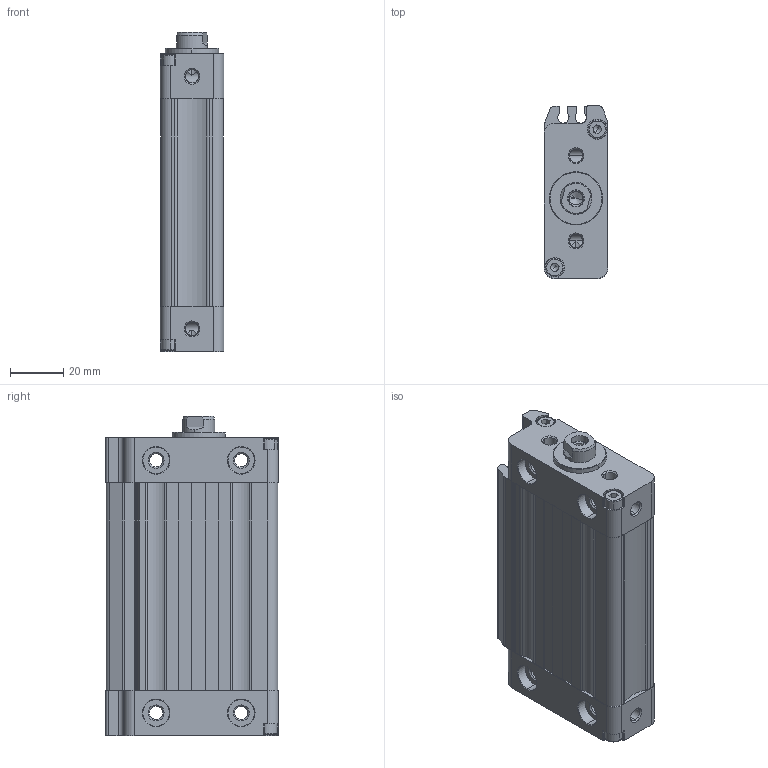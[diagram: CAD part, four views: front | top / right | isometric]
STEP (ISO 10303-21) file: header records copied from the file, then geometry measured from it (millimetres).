
FILE_DESCRIPTION (( 'STEP AP214' ), '1' );
FILE_NAME ('WOC-032-0040 (3D).STEP', '2020-05-21T07:41:19', ( '' ), ( '' ), 'SwSTEP 2.0', 'SolidWorks 2016', '' );
FILE_SCHEMA (( 'AUTOMOTIVE_DESIGN' ));
Length unit declared in the file: millimetre
Products named in the file (5): WOC-032-0040 (3D); Group4^WOC-032-0040 (3D); Group3^WOC-032-0040 (3D); Group1^WOC-032-0040 (3D); Group2^WOC-032-0040 (3D)
Assembly tree (4 placements, depth 2):
  WOC-032-0040 (3D)
    Group1^WOC-032-0040 (3D)
    Group2^WOC-032-0040 (3D)
    Group3^WOC-032-0040 (3D)
    Group4^WOC-032-0040 (3D)
Bounding box: 24 x 65 x 120 mm (x, y, z)
Volume: 126450.6 mm3; surface area: 47689.9 mm2
Topology: 10 solids, 10 shells, 648 faces, 1651 edges, 1056 vertices
Faces by surface type: plane 320, cylinder 149, bspline 91, cone 88
Entity records: 26693 total; most frequent: CARTESIAN_POINT 8972, ORIENTED_EDGE 3278, DIRECTION 2947, EDGE_CURVE 1639, VERTEX_POINT 1056, LINE 1027, VECTOR 1027, AXIS2_PLACEMENT_3D 960
